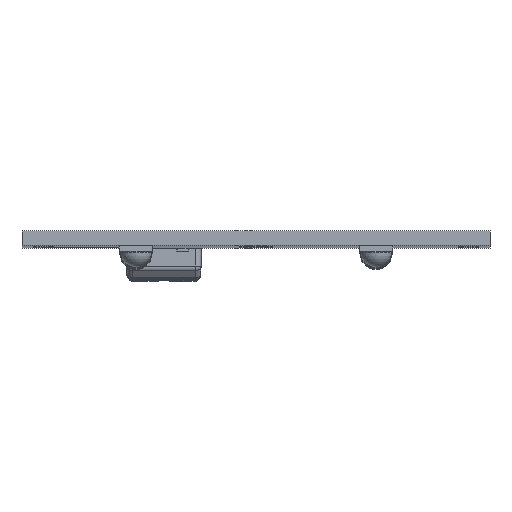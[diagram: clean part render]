
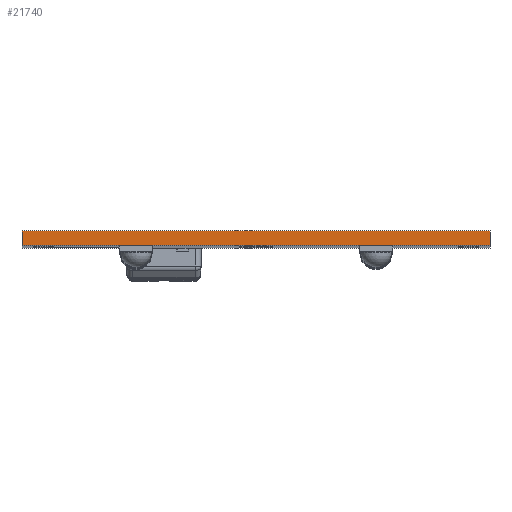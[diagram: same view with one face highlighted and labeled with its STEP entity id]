
A CAD part, top view. The second image highlights one B-rep face of the part: STEP entity #21740.
In plain terms, the highlighted planar face has unit normal (0, 0, 1).
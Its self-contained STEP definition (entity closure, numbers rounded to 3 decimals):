
#807=LINE('',#27804,#2347);
#1075=LINE('',#28970,#2615);
#1076=LINE('',#28972,#2616);
#1077=LINE('',#28974,#2617);
#2347=VECTOR('',#23794,1000.);
#2615=VECTOR('',#24318,1000.);
#2616=VECTOR('',#24319,1000.);
#2617=VECTOR('',#24320,1000.);
#4331=ORIENTED_EDGE('',*,*,#8539,.F.);
#4332=ORIENTED_EDGE('',*,*,#8898,.F.);
#4333=ORIENTED_EDGE('',*,*,#8899,.T.);
#4334=ORIENTED_EDGE('',*,*,#8900,.T.);
#8539=EDGE_CURVE('',#10864,#10865,#807,.T.);
#8898=EDGE_CURVE('',#11188,#10864,#1075,.T.);
#8899=EDGE_CURVE('',#11188,#11189,#1076,.T.);
#8900=EDGE_CURVE('',#11189,#10865,#1077,.T.);
#10864=VERTEX_POINT('',#27805);
#10865=VERTEX_POINT('',#27806);
#11188=VERTEX_POINT('',#28971);
#11189=VERTEX_POINT('',#28973);
#12888=EDGE_LOOP('',(#4331,#4332,#4333,#4334));
#13941=FACE_BOUND('',#12888,.T.);
#14901=PLANE('',#22718);
#21740=ADVANCED_FACE('',(#13941),#14901,.T.);
#22718=AXIS2_PLACEMENT_3D('',#28969,#24316,#24317);
#23794=DIRECTION('',(-1.,0.,0.));
#24316=DIRECTION('',(0.,0.,1.));
#24317=DIRECTION('',(1.,0.,0.));
#24318=DIRECTION('',(0.,-1.,0.));
#24319=DIRECTION('',(-1.,0.,0.));
#24320=DIRECTION('',(0.,-1.,0.));
#27804=CARTESIAN_POINT('',(-24.75,0.,86.1));
#27805=CARTESIAN_POINT('',(24.75,0.,86.1));
#27806=CARTESIAN_POINT('',(-24.75,0.,86.1));
#28969=CARTESIAN_POINT('',(-24.75,1.5,86.1));
#28970=CARTESIAN_POINT('',(24.75,1.5,86.1));
#28971=CARTESIAN_POINT('',(24.75,1.5,86.1));
#28972=CARTESIAN_POINT('',(-24.75,1.5,86.1));
#28973=CARTESIAN_POINT('',(-24.75,1.5,86.1));
#28974=CARTESIAN_POINT('',(-24.75,1.5,86.1));
